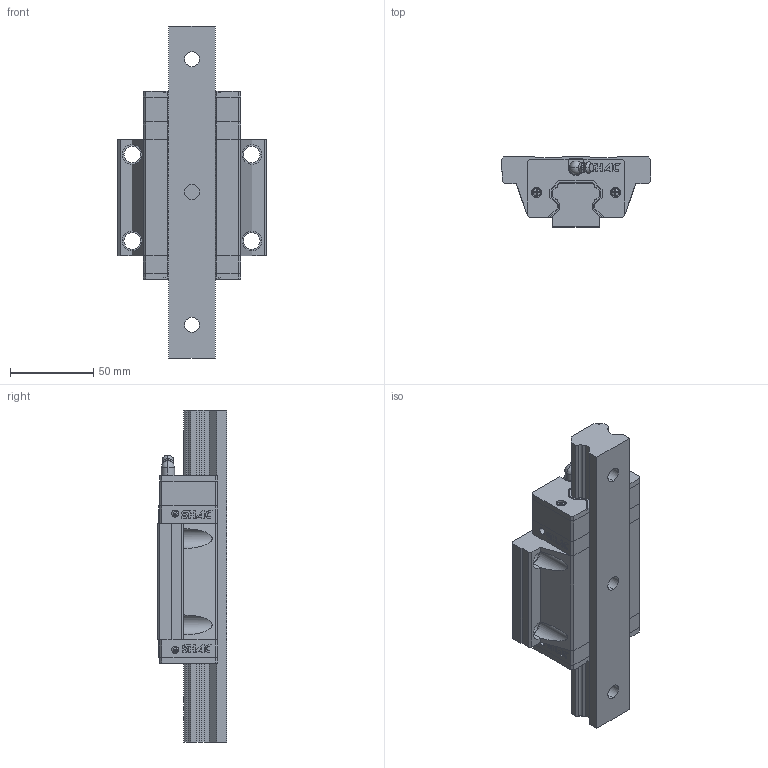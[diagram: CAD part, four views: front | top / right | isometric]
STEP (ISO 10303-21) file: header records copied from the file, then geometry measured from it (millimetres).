
FILE_DESCRIPTION (( 'STEP AP214' ), '1' );
FILE_NAME ('STP_GHW30CC_(E2)自润式_(R)上锁式_刮油片＋防尘条_1_200_200_GHW30CC_GHW30CC.step', '2020-06-27T03:05:33', ( 'IT Division' ), ( 'IT' ), 'SwSTEP 2.0', 'SolidWorks 2016', '' );
FILE_SCHEMA (( 'AUTOMOTIVE_DESIGN' ));
Length unit declared in the file: millimetre
Products named in the file (3): STP_GHW30CC_(E2)自润式_(R)上锁式_刮油片＋防尘条_1_200_200_GHW30CC_GHW30CC; STP_GHW30CC_(E2)自润式_(R)上锁式_刮油片＋防尘条_1_200_200_GHW30CC_GHW30CC_1; STP_GHW30CC_(E2)自润式_(R)上锁式_刮油片＋防尘条_1_200_200_GHW30CC_GHW30CC_2
Assembly tree (2 placements, depth 2):
  STP_GHW30CC_(E2)自润式_(R)上锁式_刮油片＋防尘条_1_200_200_GHW30CC_GHW30CC
    STP_GHW30CC_(E2)自润式_(R)上锁式_刮油片＋防尘条_1_200_200_GHW30CC_GHW30CC_1
    STP_GHW30CC_(E2)自润式_(R)上锁式_刮油片＋防尘条_1_200_200_GHW30CC_GHW30CC_2
Bounding box: 90 x 42 x 200 mm (x, y, z)
Volume: 337895.8 mm3; surface area: 78896.3 mm2
Topology: 8 solids, 8 shells, 853 faces, 2295 edges, 1510 vertices
Faces by surface type: plane 633, cylinder 162, torus 25, cone 23, sphere 10
Entity records: 30548 total; most frequent: CARTESIAN_POINT 4845, ORIENTED_EDGE 4582, DIRECTION 4436, EDGE_CURVE 2291, VECTOR 1782, LINE 1782, VERTEX_POINT 1508, AXIS2_PLACEMENT_3D 1327
